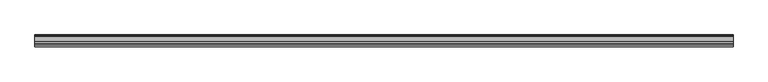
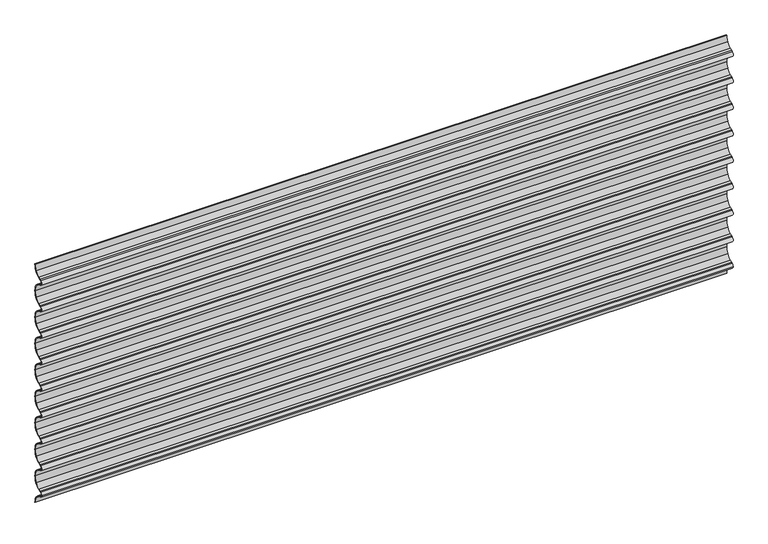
"""IFC4 building model written with IfcOpenShell, lengths in millimetres: plate geometry, Regolare Horizontal 801 : Regolare Horizontal 801."""

import ifcopenshell
import ifcopenshell.guid

model = None  # the IFC model being written
_history = None  # IfcOwnerHistory: only IFC2X3 demands one
_inside = {}  # id of a spatial element -> (the spatial element, [elements in it])
_under = {}  # id of a project, library or spatial element -> (it, [spatial elements below it])
_declared = {}  # id of a project -> (the project, [libraries it declares])
_typed = {}  # id of a type object -> (the type object, [elements of that type])
_made_of = {}  # id of a material, layer set ... -> (it, [elements and type objects made of it])


def new_model(schema):
    """Start an empty IFC model of exactly this schema.

    Asked for "IFC4X3", IfcOpenShell would pick the latest addendum, in which some entities
    have other attributes; the version numbers below select the first issue.
    IFC2X3 requires an IfcOwnerHistory on every rooted entity: one is made here for all.
    """
    global model, _history
    if schema == "IFC4X3":
        model = ifcopenshell.file(schema_version=(4, 3, 0, 0))
    else:
        model = ifcopenshell.file(schema=schema)
    _inside.clear()
    _under.clear()
    _declared.clear()
    _typed.clear()
    _made_of.clear()
    _history = None
    if model.schema == "IFC2X3":
        org = make("IfcOrganization", Name="unknown")
        user = make(
            "IfcPersonAndOrganization",
            ThePerson=make("IfcPerson", FamilyName="unknown"),
            TheOrganization=org,
        )
        app = make(
            "IfcApplication",
            ApplicationDeveloper=org,
            Version="unknown",
            ApplicationFullName="unknown",
            ApplicationIdentifier="unknown",
        )
        _history = make(
            "IfcOwnerHistory",
            OwningUser=user,
            OwningApplication=app,
            ChangeAction="ADDED",
            CreationDate=0,
        )
    return model


def make(cls, **values):
    """One entity of the class cls with the attributes given. An attribute that is None is left unset."""
    return model.create_entity(
        cls, **{name: value for name, value in values.items() if value is not None}
    )


def rooted(cls, **values):
    """An entity with a GlobalId (a new one), such as an element, a storey or a relation."""
    return make(cls, GlobalId=ifcopenshell.guid.new(), OwnerHistory=_history, **values)


def si_unit(unit_type, name, prefix=None):
    """IfcSIUnit, for example si_unit("LENGTHUNIT", "METRE", prefix="MILLI")."""
    return make("IfcSIUnit", UnitType=unit_type, Prefix=prefix, Name=name)


def assignment(units):
    """IfcUnitAssignment: the units of a project."""
    return None if units is None else make("IfcUnitAssignment", Units=units)


def point(xyz):
    """IfcCartesianPoint."""
    return None if xyz is None else make("IfcCartesianPoint", Coordinates=xyz)


def direction(xyz):
    """IfcDirection."""
    return None if xyz is None else make("IfcDirection", DirectionRatios=xyz)


def frame(location, z_axis=None, x_axis=None):
    """IfcAxis2Placement3D, a coordinate frame: its origin and axes. An axis left out is left unset."""
    return make(
        "IfcAxis2Placement3D",
        Location=point(location),
        Axis=direction(z_axis),
        RefDirection=direction(x_axis),
    )


def frame_2d(location, x_axis=None):
    """IfcAxis2Placement2D, a coordinate frame in the plane: its origin and x axis."""
    return make(
        "IfcAxis2Placement2D", Location=point(location), RefDirection=direction(x_axis)
    )


def origin():
    """The frame at (0, 0, 0) with its axes left unset."""
    return frame((0.0, 0.0, 0.0))


def place(relative_to, where):
    """IfcLocalPlacement: puts the frame where relative to a parent placement (None: the world)."""
    return make(
        "IfcLocalPlacement", PlacementRelTo=relative_to, RelativePlacement=where
    )


def context(
    kind, dimensions, precision=None, world=None, true_north=None, identifier=None
):
    """IfcGeometricRepresentationContext, for example the 3D "Model" context."""
    return make(
        "IfcGeometricRepresentationContext",
        ContextIdentifier=identifier,
        ContextType=kind,
        CoordinateSpaceDimension=dimensions,
        Precision=precision,
        WorldCoordinateSystem=world,
        TrueNorth=true_north,
    )


def project(units=None, contexts=None):
    """IfcProject with its units and contexts."""
    return rooted(
        "IfcProject",
        Name="project",
        RepresentationContexts=contexts,
        UnitsInContext=assignment(units),
    )


def spatial(cls, under=None, at=None, **own):
    """A site, building, storey or space (cls), placed at a placement, below another one or the project."""
    s = rooted(cls, ObjectPlacement=at, **own)
    if under is not None:
        _under.setdefault(under.id(), (under, []))[1].append(s)
    return s


def polyline(points):
    """IfcPolyline through the points."""
    return make("IfcPolyline", Points=[point(p) for p in points])


def circle_curve(where, radius):
    """IfcCircle in the frame where."""
    return make("IfcCircle", Position=where, Radius=radius)


def trimmed(basis, trim1, trim2, sense, master):
    """IfcTrimmedCurve: the piece of a basis curve between two trims."""
    return make(
        "IfcTrimmedCurve",
        BasisCurve=basis,
        Trim1=trim1,
        Trim2=trim2,
        SenseAgreement=sense,
        MasterRepresentation=master,
    )


def segment(curve, same_sense, transition):
    """IfcCompositeCurveSegment."""
    return make(
        "IfcCompositeCurveSegment",
        Transition=transition,
        SameSense=same_sense,
        ParentCurve=curve,
    )


def composite_curve(segments, self_intersect=None):
    """IfcCompositeCurve: segments joined end to end."""
    return make("IfcCompositeCurve", Segments=segments, SelfIntersect=self_intersect)


def outline(outer, holes=None, kind="AREA"):
    """IfcArbitraryClosedProfileDef: a profile drawn as a closed curve; with holes, ...WithVoids."""
    if holes is None:
        return make("IfcArbitraryClosedProfileDef", ProfileType=kind, OuterCurve=outer)
    return make(
        "IfcArbitraryProfileDefWithVoids",
        ProfileType=kind,
        OuterCurve=outer,
        InnerCurves=holes,
    )


def extrude(swept, where, along, depth):
    """IfcExtrudedAreaSolid: the profile swept, set in the frame where, extruded along a direction by depth."""
    return make(
        "IfcExtrudedAreaSolid",
        SweptArea=swept,
        Position=where,
        ExtrudedDirection=direction(along),
        Depth=depth,
    )


def shape(context_of_items, identifier, shape_type, items):
    """IfcShapeRepresentation: the items that make up one representation, for example the "Body"."""
    return make(
        "IfcShapeRepresentation",
        ContextOfItems=context_of_items,
        RepresentationIdentifier=identifier,
        RepresentationType=shape_type,
        Items=items,
    )


def source(mapping_origin, context_of_items, identifier, shape_type, items):
    """IfcRepresentationMap: a shape defined once, which mapped items show again and again."""
    return make(
        "IfcRepresentationMap",
        MappingOrigin=mapping_origin,
        MappedRepresentation=shape(context_of_items, identifier, shape_type, items),
    )


def transform(
    local_origin,
    x_axis=None,
    y_axis=None,
    z_axis=None,
    scale=None,
    scale2=None,
    scale3=None,
    uniform=True,
):
    """IfcCartesianTransformationOperator3D, or its non-uniform kind. x_axis, y_axis, z_axis: its Axis1, 2, 3."""
    if uniform:
        return make(
            "IfcCartesianTransformationOperator3D",
            Axis1=direction(x_axis),
            Axis2=direction(y_axis),
            LocalOrigin=point(local_origin),
            Scale=scale,
            Axis3=direction(z_axis),
        )
    return make(
        "IfcCartesianTransformationOperator3DnonUniform",
        Axis1=direction(x_axis),
        Axis2=direction(y_axis),
        LocalOrigin=point(local_origin),
        Scale=scale,
        Axis3=direction(z_axis),
        Scale2=scale2,
        Scale3=scale3,
    )


def mapped(mapping_source, mapping_target):
    """IfcMappedItem: shows the shape of a source again, moved by a transform."""
    return make(
        "IfcMappedItem", MappingSource=mapping_source, MappingTarget=mapping_target
    )


def made_of(thing, what):
    """Note that an element or type object is made of a material, layer set ...; save() writes the relation."""
    if what is not None:
        _made_of.setdefault(what.id(), (what, []))[1].append(thing)
    return thing


def element(
    cls,
    number,
    at=None,
    inside=None,
    cuts=None,
    type_object=None,
    material=None,
    context=None,
    identifier="Body",
    shape_type=None,
    held_by="IfcProductDefinitionShape",
    body=None,
    shapes=None,
    **own,
):
    """One element of the class cls, such as IfcWall. Its Tag is "e" and its number.

    at: its placement. inside: the storey or other place that contains it. cuts: it is an
    opening in that element (IfcRelVoidsElement). A single representation is given by context,
    identifier, shape_type and body (its items); several are given by shapes. held_by: the class
    of the entity that holds the representations. save() writes the other relations.
    """
    e = rooted(cls, Tag="e%d" % number, ObjectPlacement=at, **own)
    if body is not None:
        shapes = [shape(context, identifier, shape_type, body)]
    if shapes is not None:
        e.Representation = make(held_by, Representations=shapes)
    if inside is not None:
        _inside.setdefault(inside.id(), (inside, []))[1].append(e)
    if cuts is not None:
        rooted(
            "IfcRelVoidsElement", RelatingBuildingElement=cuts, RelatedOpeningElement=e
        )
    if type_object is not None:
        _typed.setdefault(type_object.id(), (type_object, []))[1].append(e)
    return made_of(e, material)


def aggregate(whole, parts):
    """IfcRelAggregates: a whole, such as a stair, and the parts it consists of."""
    return rooted("IfcRelAggregates", RelatingObject=whole, RelatedObjects=parts)


def save(model, path):
    """Write the relations noted so far, then the file.

    IfcRelAggregates (storeys below a building ...), IfcRelContainedInSpatialStructure (elements
    in a storey), IfcRelDefinesByType, IfcRelAssociatesMaterial and IfcRelDeclares: one each for
    every whole, place, type object, material and project.
    """
    for whole, parts in _under.values():
        aggregate(whole, parts)
    for where, things in _inside.values():
        rooted(
            "IfcRelContainedInSpatialStructure",
            RelatedElements=things,
            RelatingStructure=where,
        )
    for kind, things in _typed.values():
        rooted("IfcRelDefinesByType", RelatedObjects=things, RelatingType=kind)
    for what, things in _made_of.values():
        rooted("IfcRelAssociatesMaterial", RelatedObjects=things, RelatingMaterial=what)
    for by, libraries in _declared.values():
        rooted("IfcRelDeclares", RelatingContext=by, RelatedDefinitions=libraries)
    model.write(path)


def plate_0c2ce887(model_context):
    return source(origin(), model_context, "Body", "SweptSolid", [
        extrude(outline(composite_curve([segment(trimmed(circle_curve(frame_2d((-32.6206681, 3.5656452)), 30.6166783), [point((-6.5021495, 19.5407501))], [point((-21.2504634, 31.9927351))], True, "CARTESIAN"), True, "CONTINUOUS"), segment(polyline([(-21.2504634, 31.9927351), (-28.4448583, 34.874321), (-31.9093405, 36.5349457)]), True, "CONTINUOUS"), segment(trimmed(circle_curve(frame_2d((-28.0791236, 44.5257445)), 8.8613445), [point((-31.9093405, 36.5349457))], [point((-36.9404682, 44.5257445))], False, "CARTESIAN"), True, "CONTINUOUS"), segment(trimmed(circle_curve(frame_2d((-28.0791236, 44.5257445)), 8.8613445), [point((-36.9404682, 44.5257445))], [point((-31.9093405, 52.5165434))], False, "CARTESIAN"), True, "CONTINUOUS"), segment(polyline([(-31.9093405, 52.5165434), (-28.4448583, 54.1771681), (-21.2504634, 57.058754)]), True, "CONTINUOUS"), segment(trimmed(circle_curve(frame_2d((-32.6206681, 85.4858438)), 30.6166783), [point((-21.2504634, 57.058754))], [point((-6.5021495, 69.5107389))], True, "CARTESIAN"), True, "CONTINUOUS"), segment(trimmed(circle_curve(frame_2d((-38.4503244, 89.0514891)), 37.4503244), [point((-6.5021495, 69.5107389))], [point((-1.0, 89.0514891))], True, "CARTESIAN"), True, "CONTINUOUS"), segment(trimmed(circle_curve(frame_2d((-38.4503244, 89.0514891)), 37.4503244), [point((-1.0, 89.0514891))], [point((-6.5021495, 108.5922392))], True, "CARTESIAN"), True, "CONTINUOUS"), segment(trimmed(circle_curve(frame_2d((-32.6206681, 92.6171343)), 30.6166783), [point((-6.5021495, 108.5922392))], [point((-21.2504634, 121.0442242))], True, "CARTESIAN"), True, "CONTINUOUS"), segment(polyline([(-21.2504634, 121.0442242), (-28.4448583, 123.9258101), (-31.9093405, 125.5864348)]), True, "CONTINUOUS"), segment(trimmed(circle_curve(frame_2d((-28.0791236, 133.5772336)), 8.8613445), [point((-31.9093405, 125.5864348))], [point((-31.9093405, 141.5680324))], False, "CARTESIAN"), True, "CONTINUOUS"), segment(polyline([(-31.9093405, 141.5680324), (-28.4448583, 143.2286572), (-21.2504634, 146.1102431)]), True, "CONTINUOUS"), segment(trimmed(circle_curve(frame_2d((-32.6206681, 174.5373329)), 30.6166783), [point((-21.2504634, 146.1102431))], [point((-6.5021495, 158.562228))], True, "CARTESIAN"), True, "CONTINUOUS"), segment(trimmed(circle_curve(frame_2d((-38.4503244, 178.1029782)), 37.4503244), [point((-6.5021495, 158.562228))], [point((-1.0, 178.1029782))], True, "CARTESIAN"), True, "CONTINUOUS"), segment(trimmed(circle_curve(frame_2d((-38.4503244, 178.1029782)), 37.4503244), [point((-1.0, 178.1029782))], [point((-6.5021495, 197.6437283))], True, "CARTESIAN"), True, "CONTINUOUS"), segment(trimmed(circle_curve(frame_2d((-32.6206681, 181.6686234)), 30.6166783), [point((-6.5021495, 197.6437283))], [point((-21.2504634, 210.0957133))], True, "CARTESIAN"), True, "CONTINUOUS"), segment(polyline([(-21.2504634, 210.0957133), (-28.4448583, 212.9772992), (-31.9093405, 214.6379239)]), True, "CONTINUOUS"), segment(trimmed(circle_curve(frame_2d((-28.0791236, 222.6287227)), 8.8613445), [point((-31.9093405, 214.6379239))], [point((-31.9093405, 230.6195215))], False, "CARTESIAN"), True, "CONTINUOUS"), segment(polyline([(-31.9093405, 230.6195215), (-28.4448583, 232.2801463), (-21.2504634, 235.1617322)]), True, "CONTINUOUS"), segment(trimmed(circle_curve(frame_2d((-32.6206681, 263.588822)), 30.6166783), [point((-21.2504634, 235.1617322))], [point((-6.5021495, 247.6137171))], True, "CARTESIAN"), True, "CONTINUOUS"), segment(trimmed(circle_curve(frame_2d((-38.4503244, 267.1544672)), 37.4503244), [point((-6.5021495, 247.6137171))], [point((-1.0, 267.1544672))], True, "CARTESIAN"), True, "CONTINUOUS"), segment(trimmed(circle_curve(frame_2d((-38.4503244, 267.1544672)), 37.4503244), [point((-1.0, 267.1544672))], [point((-6.5021495, 286.6952174))], True, "CARTESIAN"), True, "CONTINUOUS"), segment(trimmed(circle_curve(frame_2d((-32.6206681, 270.7201125)), 30.6166783), [point((-6.5021495, 286.6952174))], [point((-21.2504634, 299.1472023))], True, "CARTESIAN"), True, "CONTINUOUS"), segment(polyline([(-21.2504634, 299.1472023), (-28.4448583, 302.0287882), (-31.9093405, 303.689413)]), True, "CONTINUOUS"), segment(trimmed(circle_curve(frame_2d((-28.0791236, 311.6802118)), 8.8613445), [point((-31.9093405, 303.689413))], [point((-31.9093405, 319.6710106))], False, "CARTESIAN"), True, "CONTINUOUS"), segment(polyline([(-31.9093405, 319.6710106), (-28.4448583, 321.3316353), (-21.2504634, 324.2132212)]), True, "CONTINUOUS"), segment(trimmed(circle_curve(frame_2d((-32.6206681, 352.6403111)), 30.6166783), [point((-21.2504634, 324.2132212))], [point((-6.5021495, 336.6652062))], True, "CARTESIAN"), True, "CONTINUOUS"), segment(trimmed(circle_curve(frame_2d((-38.4503244, 356.2059563)), 37.4503244), [point((-6.5021495, 336.6652062))], [point((-1.0, 356.2059563))], True, "CARTESIAN"), True, "CONTINUOUS"), segment(trimmed(circle_curve(frame_2d((-38.4503244, 356.2059563)), 37.4503244), [point((-1.0, 356.2059563))], [point((-6.5021495, 375.7467065))], True, "CARTESIAN"), True, "CONTINUOUS"), segment(trimmed(circle_curve(frame_2d((-32.6206681, 359.7716016)), 30.6166783), [point((-6.5021495, 375.7467065))], [point((-21.2504634, 388.1986914))], True, "CARTESIAN"), True, "CONTINUOUS"), segment(polyline([(-21.2504634, 388.1986914), (-28.4448583, 391.0802773), (-31.9093405, 392.740902)]), True, "CONTINUOUS"), segment(trimmed(circle_curve(frame_2d((-28.0791236, 400.7317009)), 8.8613445), [point((-31.9093405, 392.740902))], [point((-31.9093405, 408.7224997))], False, "CARTESIAN"), True, "CONTINUOUS"), segment(polyline([(-31.9093405, 408.7224997), (-28.4448583, 410.3831244), (-21.2504634, 413.2647103)]), True, "CONTINUOUS"), segment(trimmed(circle_curve(frame_2d((-32.6206681, 441.6918002)), 30.6166783), [point((-21.2504634, 413.2647103))], [point((-6.5021495, 425.7166953))], True, "CARTESIAN"), True, "CONTINUOUS"), segment(trimmed(circle_curve(frame_2d((-38.4503244, 445.2574454)), 37.4503244), [point((-6.5021495, 425.7166953))], [point((-1.0, 445.2574454))], True, "CARTESIAN"), True, "CONTINUOUS"), segment(trimmed(circle_curve(frame_2d((-38.4503244, 445.2574454)), 37.4503244), [point((-1.0, 445.2574454))], [point((-6.5021495, 464.7981955))], True, "CARTESIAN"), True, "CONTINUOUS"), segment(trimmed(circle_curve(frame_2d((-32.6206681, 448.8230907)), 30.6166783), [point((-6.5021495, 464.7981955))], [point((-21.2504634, 477.2501805))], True, "CARTESIAN"), True, "CONTINUOUS"), segment(polyline([(-21.2504634, 477.2501805), (-28.4448583, 480.1317664), (-31.9093405, 481.7923911)]), True, "CONTINUOUS"), segment(trimmed(circle_curve(frame_2d((-28.0791236, 489.7831899)), 8.8613445), [point((-31.9093405, 481.7923911))], [point((-31.9093405, 497.7739888))], False, "CARTESIAN"), True, "CONTINUOUS"), segment(polyline([(-31.9093405, 497.7739888), (-28.4448583, 499.4346135), (-21.2504634, 502.3161994)]), True, "CONTINUOUS"), segment(trimmed(circle_curve(frame_2d((-32.6206681, 530.7432892)), 30.6166783), [point((-21.2504634, 502.3161994))], [point((-6.5021495, 514.7681843))], True, "CARTESIAN"), True, "CONTINUOUS"), segment(trimmed(circle_curve(frame_2d((-38.4503244, 534.3089345)), 37.4503244), [point((-6.5021495, 514.7681843))], [point((-1.0, 534.3089345))], True, "CARTESIAN"), True, "CONTINUOUS"), segment(trimmed(circle_curve(frame_2d((-38.4503244, 534.3089345)), 37.4503244), [point((-1.0, 534.3089345))], [point((-6.5021495, 553.8496846))], True, "CARTESIAN"), True, "CONTINUOUS"), segment(trimmed(circle_curve(frame_2d((-32.6206681, 537.8745797)), 30.6166783), [point((-6.5021495, 553.8496846))], [point((-21.2504634, 566.3016696))], True, "CARTESIAN"), True, "CONTINUOUS"), segment(polyline([(-21.2504634, 566.3016696), (-28.4448583, 569.1832555), (-31.9093405, 570.8438802)]), True, "CONTINUOUS"), segment(trimmed(circle_curve(frame_2d((-28.0791236, 578.834679)), 8.8613445), [point((-31.9093405, 570.8438802))], [point((-31.9093405, 586.8254778))], False, "CARTESIAN"), True, "CONTINUOUS"), segment(polyline([(-31.9093405, 586.8254778), (-28.4448583, 588.4861026), (-21.2504634, 591.3676885)]), True, "CONTINUOUS"), segment(trimmed(circle_curve(frame_2d((-32.6206681, 619.7947783)), 30.6166783), [point((-21.2504634, 591.3676885))], [point((-6.5021495, 603.8196734))], True, "CARTESIAN"), True, "CONTINUOUS"), segment(trimmed(circle_curve(frame_2d((-38.4503244, 623.3604236)), 37.4503244), [point((-6.5021495, 603.8196734))], [point((-1.0, 623.3604236))], True, "CARTESIAN"), True, "CONTINUOUS"), segment(trimmed(circle_curve(frame_2d((-38.4503244, 623.3604236)), 37.4503244), [point((-1.0, 623.3604236))], [point((-6.5021495, 642.9011737))], True, "CARTESIAN"), True, "CONTINUOUS"), segment(trimmed(circle_curve(frame_2d((-32.6206681, 626.9260688)), 30.6166783), [point((-6.5021495, 642.9011737))], [point((-21.2504634, 655.3531587))], True, "CARTESIAN"), True, "CONTINUOUS"), segment(polyline([(-21.2504634, 655.3531587), (-28.4448583, 658.2347446), (-31.9093405, 659.8953693)]), True, "CONTINUOUS"), segment(trimmed(circle_curve(frame_2d((-28.0791236, 667.8861681)), 8.8613445), [point((-31.9093405, 659.8953693))], [point((-31.9093405, 675.8769669))], False, "CARTESIAN"), True, "CONTINUOUS"), segment(polyline([(-31.9093405, 675.8769669), (-28.4448583, 677.5375917), (-21.2504634, 680.4191776)]), True, "CONTINUOUS"), segment(trimmed(circle_curve(frame_2d((-32.6206681, 708.8462674)), 30.6166783), [point((-21.2504634, 680.4191776))], [point((-6.5021495, 692.8711625))], True, "CARTESIAN"), True, "CONTINUOUS"), segment(trimmed(circle_curve(frame_2d((-38.4503244, 712.4119126)), 37.4503244), [point((-6.5021495, 692.8711625))], [point((-1.0, 712.4119126))], True, "CARTESIAN"), True, "CONTINUOUS"), segment(trimmed(circle_curve(frame_2d((-38.4503244, 712.4119126)), 37.4503244), [point((-1.0, 712.4119126))], [point((-6.5021495, 731.9526628))], True, "CARTESIAN"), True, "CONTINUOUS"), segment(trimmed(circle_curve(frame_2d((-32.6206681, 715.9775579)), 30.6166783), [point((-6.5021495, 731.9526628))], [point((-21.2504634, 744.4046477))], True, "CARTESIAN"), True, "CONTINUOUS"), segment(polyline([(-21.2504634, 744.4046477), (-28.4448583, 747.2862336), (-31.9093405, 748.9468584)]), True, "CONTINUOUS"), segment(trimmed(circle_curve(frame_2d((-28.0791236, 756.9376572)), 8.8613445), [point((-31.9093405, 748.9468584))], [point((-31.9093405, 764.928456))], False, "CARTESIAN"), True, "CONTINUOUS"), segment(polyline([(-31.9093405, 764.928456), (-28.4448583, 766.5890807), (-21.2504634, 769.4706666)]), True, "CONTINUOUS"), segment(trimmed(circle_curve(frame_2d((-32.6206681, 797.8977565)), 30.6166783), [point((-21.2504634, 769.4706666))], [point((-6.5021495, 781.9226516))], True, "CARTESIAN"), True, "CONTINUOUS"), segment(trimmed(circle_curve(frame_2d((-38.4503244, 801.4634017)), 37.4503244), [point((-6.5021495, 781.9226516))], [point((-1.0, 801.4634017))], True, "CARTESIAN"), True, "CONTINUOUS"), segment(polyline([(-1.0, 801.4634017), (0.0, 801.4634017)]), True, "CONTINUOUS"), segment(trimmed(circle_curve(frame_2d((-38.4503244, 801.4634017)), 38.4503244), [point((0.0, 801.4634017))], [point((-5.6490681, 781.4008737))], False, "CARTESIAN"), True, "CONTINUOUS"), segment(trimmed(circle_curve(frame_2d((-32.6206681, 797.8977565)), 31.6166783), [point((-5.6490681, 781.4008737))], [point((-20.878867, 768.5422723))], False, "CARTESIAN"), True, "CONTINUOUS"), segment(polyline([(-20.878867, 768.5422723), (-28.0423924, 765.6730505), (-31.4771017, 764.0266968)]), True, "CONTINUOUS"), segment(trimmed(circle_curve(frame_2d((-28.0791236, 756.9376572)), 7.8613445), [point((-31.4771017, 764.0266968))], [point((-31.4771017, 749.8486175))], True, "CARTESIAN"), True, "CONTINUOUS"), segment(polyline([(-31.4771017, 749.8486175), (-28.0423924, 748.2022638), (-20.878867, 745.3330421)]), True, "CONTINUOUS"), segment(trimmed(circle_curve(frame_2d((-32.6206681, 715.9775579)), 31.6166783), [point((-20.878867, 745.3330421))], [point((-5.6490681, 732.4744406))], False, "CARTESIAN"), True, "CONTINUOUS"), segment(trimmed(circle_curve(frame_2d((-38.4503244, 712.4119126)), 38.4503244), [point((-5.6490681, 732.4744406))], [point((0.0, 712.4119126))], False, "CARTESIAN"), True, "CONTINUOUS"), segment(trimmed(circle_curve(frame_2d((-38.4503244, 712.4119126)), 38.4503244), [point((0.0, 712.4119126))], [point((-5.6490681, 692.3493846))], False, "CARTESIAN"), True, "CONTINUOUS"), segment(trimmed(circle_curve(frame_2d((-32.6206681, 708.8462674)), 31.6166783), [point((-5.6490681, 692.3493846))], [point((-20.878867, 679.4907832))], False, "CARTESIAN"), True, "CONTINUOUS"), segment(polyline([(-20.878867, 679.4907832), (-28.0423924, 676.6215615), (-31.4771017, 674.9752077)]), True, "CONTINUOUS"), segment(trimmed(circle_curve(frame_2d((-28.0791236, 667.8861681)), 7.8613445), [point((-31.4771017, 674.9752077))], [point((-31.4771017, 660.7971285))], True, "CARTESIAN"), True, "CONTINUOUS"), segment(polyline([(-31.4771017, 660.7971285), (-28.0423924, 659.1507748), (-20.878867, 656.281553)]), True, "CONTINUOUS"), segment(trimmed(circle_curve(frame_2d((-32.6206681, 626.9260688)), 31.6166783), [point((-20.878867, 656.281553))], [point((-5.6490681, 643.4229516))], False, "CARTESIAN"), True, "CONTINUOUS"), segment(trimmed(circle_curve(frame_2d((-38.4503244, 623.3604236)), 38.4503244), [point((-5.6490681, 643.4229516))], [point((0.0, 623.3604236))], False, "CARTESIAN"), True, "CONTINUOUS"), segment(trimmed(circle_curve(frame_2d((-38.4503244, 623.3604236)), 38.4503244), [point((0.0, 623.3604236))], [point((-5.6490681, 603.2978956))], False, "CARTESIAN"), True, "CONTINUOUS"), segment(trimmed(circle_curve(frame_2d((-32.6206681, 619.7947783)), 31.6166783), [point((-5.6490681, 603.2978956))], [point((-20.878867, 590.4392941))], False, "CARTESIAN"), True, "CONTINUOUS"), segment(polyline([(-20.878867, 590.4392941), (-28.0423924, 587.5700724), (-31.4771017, 585.9237187)]), True, "CONTINUOUS"), segment(trimmed(circle_curve(frame_2d((-28.0791236, 578.834679)), 7.8613445), [point((-31.4771017, 585.9237187))], [point((-31.4771017, 571.7456394))], True, "CARTESIAN"), True, "CONTINUOUS"), segment(polyline([(-31.4771017, 571.7456394), (-28.0423924, 570.0992857), (-20.878867, 567.2300639)]), True, "CONTINUOUS"), segment(trimmed(circle_curve(frame_2d((-32.6206681, 537.8745797)), 31.6166783), [point((-20.878867, 567.2300639))], [point((-5.6490681, 554.3714625))], False, "CARTESIAN"), True, "CONTINUOUS"), segment(trimmed(circle_curve(frame_2d((-38.4503244, 534.3089345)), 38.4503244), [point((-5.6490681, 554.3714625))], [point((0.0, 534.3089345))], False, "CARTESIAN"), True, "CONTINUOUS"), segment(trimmed(circle_curve(frame_2d((-38.4503244, 534.3089345)), 38.4503244), [point((0.0, 534.3089345))], [point((-5.6490681, 514.2464065))], False, "CARTESIAN"), True, "CONTINUOUS"), segment(trimmed(circle_curve(frame_2d((-32.6206681, 530.7432892)), 31.6166783), [point((-5.6490681, 514.2464065))], [point((-20.878867, 501.387805))], False, "CARTESIAN"), True, "CONTINUOUS"), segment(polyline([(-20.878867, 501.387805), (-28.0423924, 498.5185833), (-31.4771017, 496.8722296)]), True, "CONTINUOUS"), segment(trimmed(circle_curve(frame_2d((-28.0791236, 489.7831899)), 7.8613445), [point((-31.4771017, 496.8722296))], [point((-31.4771017, 482.6941503))], True, "CARTESIAN"), True, "CONTINUOUS"), segment(polyline([(-31.4771017, 482.6941503), (-28.0423924, 481.0477966), (-20.878867, 478.1785749)]), True, "CONTINUOUS"), segment(trimmed(circle_curve(frame_2d((-32.6206681, 448.8230907)), 31.6166783), [point((-20.878867, 478.1785749))], [point((-5.6490681, 465.3199734))], False, "CARTESIAN"), True, "CONTINUOUS"), segment(trimmed(circle_curve(frame_2d((-38.4503244, 445.2574454)), 38.4503244), [point((-5.6490681, 465.3199734))], [point((0.0, 445.2574454))], False, "CARTESIAN"), True, "CONTINUOUS"), segment(trimmed(circle_curve(frame_2d((-38.4503244, 445.2574454)), 38.4503244), [point((0.0, 445.2574454))], [point((-5.6490681, 425.1949174))], False, "CARTESIAN"), True, "CONTINUOUS"), segment(trimmed(circle_curve(frame_2d((-32.6206681, 441.6918002)), 31.6166783), [point((-5.6490681, 425.1949174))], [point((-20.878867, 412.3363159))], False, "CARTESIAN"), True, "CONTINUOUS"), segment(polyline([(-20.878867, 412.3363159), (-28.0423924, 409.4670942), (-31.4771017, 407.8207405)]), True, "CONTINUOUS"), segment(trimmed(circle_curve(frame_2d((-28.0791236, 400.7317009)), 7.8613445), [point((-31.4771017, 407.8207405))], [point((-31.4771017, 393.6426612))], True, "CARTESIAN"), True, "CONTINUOUS"), segment(polyline([(-31.4771017, 393.6426612), (-28.0423924, 391.9963075), (-20.878867, 389.1270858)]), True, "CONTINUOUS"), segment(trimmed(circle_curve(frame_2d((-32.6206681, 359.7716016)), 31.6166783), [point((-20.878867, 389.1270858))], [point((-5.6490681, 376.2684843))], False, "CARTESIAN"), True, "CONTINUOUS"), segment(trimmed(circle_curve(frame_2d((-38.4503244, 356.2059563)), 38.4503244), [point((-5.6490681, 376.2684843))], [point((0.0, 356.2059563))], False, "CARTESIAN"), True, "CONTINUOUS"), segment(trimmed(circle_curve(frame_2d((-38.4503244, 356.2059563)), 38.4503244), [point((0.0, 356.2059563))], [point((-5.6490681, 336.1434283))], False, "CARTESIAN"), True, "CONTINUOUS"), segment(trimmed(circle_curve(frame_2d((-32.6206681, 352.6403111)), 31.6166783), [point((-5.6490681, 336.1434283))], [point((-20.878867, 323.2848269))], False, "CARTESIAN"), True, "CONTINUOUS"), segment(polyline([(-20.878867, 323.2848269), (-28.0423924, 320.4156051), (-31.4771017, 318.7692514)]), True, "CONTINUOUS"), segment(trimmed(circle_curve(frame_2d((-28.0791236, 311.6802118)), 7.8613445), [point((-31.4771017, 318.7692514))], [point((-31.4771017, 304.5911721))], True, "CARTESIAN"), True, "CONTINUOUS"), segment(polyline([(-31.4771017, 304.5911721), (-28.0423924, 302.9448184), (-20.878867, 300.0755967)]), True, "CONTINUOUS"), segment(trimmed(circle_curve(frame_2d((-32.6206681, 270.7201125)), 31.6166783), [point((-20.878867, 300.0755967))], [point((-5.6490681, 287.2169952))], False, "CARTESIAN"), True, "CONTINUOUS"), segment(trimmed(circle_curve(frame_2d((-38.4503244, 267.1544672)), 38.4503244), [point((-5.6490681, 287.2169952))], [point((0.0, 267.1544672))], False, "CARTESIAN"), True, "CONTINUOUS"), segment(trimmed(circle_curve(frame_2d((-38.4503244, 267.1544672)), 38.4503244), [point((0.0, 267.1544672))], [point((-5.6490681, 247.0919392))], False, "CARTESIAN"), True, "CONTINUOUS"), segment(trimmed(circle_curve(frame_2d((-32.6206681, 263.588822)), 31.6166783), [point((-5.6490681, 247.0919392))], [point((-20.878867, 234.2333378))], False, "CARTESIAN"), True, "CONTINUOUS"), segment(polyline([(-20.878867, 234.2333378), (-28.0423924, 231.3641161), (-31.4771017, 229.7177623)]), True, "CONTINUOUS"), segment(trimmed(circle_curve(frame_2d((-28.0791236, 222.6287227)), 7.8613445), [point((-31.4771017, 229.7177623))], [point((-31.4771017, 215.5396831))], True, "CARTESIAN"), True, "CONTINUOUS"), segment(polyline([(-31.4771017, 215.5396831), (-28.0423924, 213.8933293), (-20.878867, 211.0241076)]), True, "CONTINUOUS"), segment(trimmed(circle_curve(frame_2d((-32.6206681, 181.6686234)), 31.6166783), [point((-20.878867, 211.0241076))], [point((-5.6490681, 198.1655062))], False, "CARTESIAN"), True, "CONTINUOUS"), segment(trimmed(circle_curve(frame_2d((-38.4503244, 178.1029782)), 38.4503244), [point((-5.6490681, 198.1655062))], [point((0.0, 178.1029782))], False, "CARTESIAN"), True, "CONTINUOUS"), segment(trimmed(circle_curve(frame_2d((-38.4503244, 178.1029782)), 38.4503244), [point((0.0, 178.1029782))], [point((-5.6490681, 158.0404502))], False, "CARTESIAN"), True, "CONTINUOUS"), segment(trimmed(circle_curve(frame_2d((-32.6206681, 174.5373329)), 31.6166783), [point((-5.6490681, 158.0404502))], [point((-20.878867, 145.1818487))], False, "CARTESIAN"), True, "CONTINUOUS"), segment(polyline([(-20.878867, 145.1818487), (-28.0423924, 142.312627), (-31.4771017, 140.6662733)]), True, "CONTINUOUS"), segment(trimmed(circle_curve(frame_2d((-28.0791236, 133.5772336)), 7.8613445), [point((-31.4771017, 140.6662733))], [point((-31.4771017, 126.488194))], True, "CARTESIAN"), True, "CONTINUOUS"), segment(polyline([(-31.4771017, 126.488194), (-28.0423924, 124.8418403), (-20.878867, 121.9726185)]), True, "CONTINUOUS"), segment(trimmed(circle_curve(frame_2d((-32.6206681, 92.6171343)), 31.6166783), [point((-20.878867, 121.9726185))], [point((-5.6490681, 109.1140171))], False, "CARTESIAN"), True, "CONTINUOUS"), segment(trimmed(circle_curve(frame_2d((-38.4503244, 89.0514891)), 38.4503244), [point((-5.6490681, 109.1140171))], [point((0.0, 89.0514891))], False, "CARTESIAN"), True, "CONTINUOUS"), segment(trimmed(circle_curve(frame_2d((-38.4503244, 89.0514891)), 38.4503244), [point((0.0, 89.0514891))], [point((-5.6490681, 68.9889611))], False, "CARTESIAN"), True, "CONTINUOUS"), segment(trimmed(circle_curve(frame_2d((-32.6206681, 85.4858438)), 31.6166783), [point((-5.6490681, 68.9889611))], [point((-20.878867, 56.1303596))], False, "CARTESIAN"), True, "CONTINUOUS"), segment(polyline([(-20.878867, 56.1303596), (-28.0423924, 53.2611379), (-31.4771017, 51.6147842)]), True, "CONTINUOUS"), segment(trimmed(circle_curve(frame_2d((-28.0791236, 44.5257445)), 7.8613445), [point((-31.4771017, 51.6147842))], [point((-35.9404682, 44.5257445))], True, "CARTESIAN"), True, "CONTINUOUS"), segment(trimmed(circle_curve(frame_2d((-28.0791236, 44.5257445)), 7.8613445), [point((-35.9404682, 44.5257445))], [point((-31.4771017, 37.4367049))], True, "CARTESIAN"), True, "CONTINUOUS"), segment(polyline([(-31.4771017, 37.4367049), (-28.0423924, 35.7903512), (-20.878867, 32.9211295)]), True, "CONTINUOUS"), segment(trimmed(circle_curve(frame_2d((-32.6206681, 3.5656452)), 31.6166783), [point((-20.878867, 32.9211295))], [point((-5.6490681, 20.062528))], False, "CARTESIAN"), True, "CONTINUOUS"), segment(trimmed(circle_curve(frame_2d((-38.4503244, 0.0)), 38.4503244), [point((-5.6490681, 20.062528))], [point((0.0, 0.0))], False, "CARTESIAN"), True, "CONTINUOUS"), segment(polyline([(0.0, 0.0), (-1.0, 0.0)]), True, "CONTINUOUS"), segment(trimmed(circle_curve(frame_2d((-38.4503244, 0.0)), 37.4503244), [point((-1.0, 0.0))], [point((-6.5021495, 19.5407501))], True, "CARTESIAN"), True, "CONTINUOUS")], self_intersect=False)), frame((-1100.0, 0.0, 0.0), z_axis=(1.0, 0.0, 0.0), x_axis=(0.0, 1.0, 0.0)), (0.0, 0.0, 1.0), 2200.0),
    ])


if __name__ == "__main__":
    model = new_model("IFC4")
    model_context = context("Model", 3, world=origin())
    ifc_project = project(units=[si_unit("LENGTHUNIT", "METRE", prefix="MILLI")], contexts=[model_context])
    site = spatial("IfcSite", under=ifc_project)
    building = spatial("IfcBuilding", under=site)
    placement = place(None, origin())
    plate_shape = plate_0c2ce887(model_context)
    element("IfcPlate", 1, ObjectType="Regolare Horizontal 801 : Regolare Horizontal 801", at=placement, inside=building, context=model_context, shape_type="MappedRepresentation", body=[
        mapped(plate_shape, transform((0.0, 0.0, 0.0), x_axis=(1.0, 0.0, 0.0), y_axis=(0.0, 1.0, 0.0), z_axis=(0.0, 0.0, 1.0))),
    ])
    save(model, "model.ifc")
